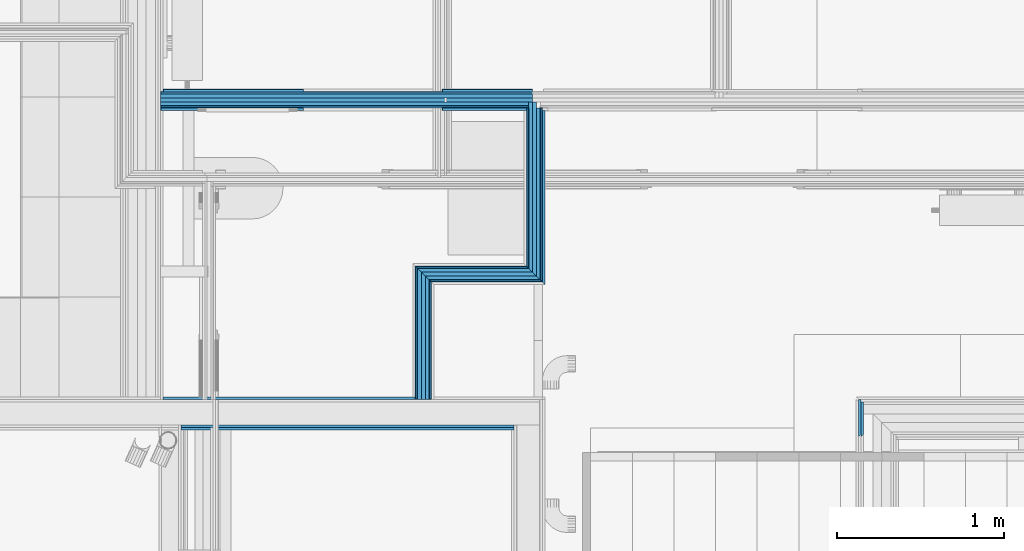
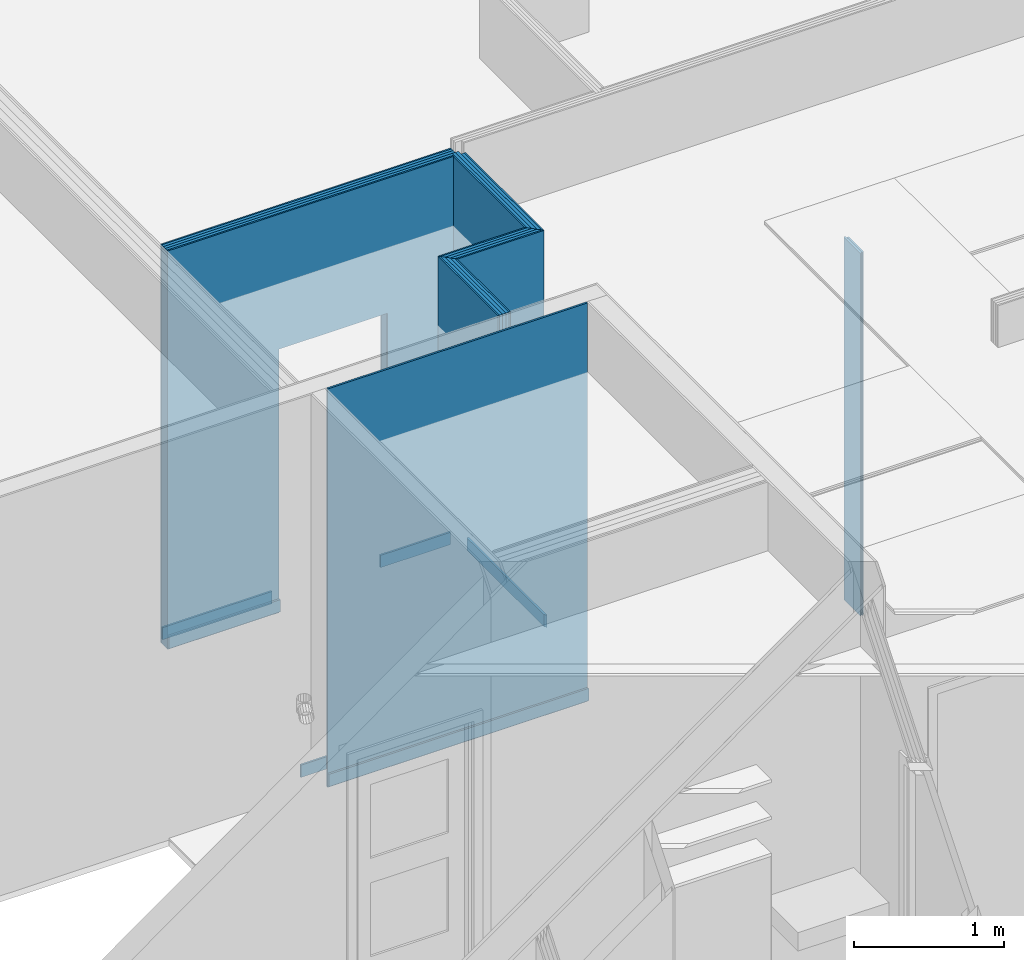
# One storey, part 42 of 169: 28 building element parts, 1 opening, 6 elements without a shape of their own.
"""IFC2X3 building model written with IfcOpenShell, lengths in metres."""

from ifc_helpers import new_model, entity, si_unit, converted_unit, derived_unit, money_unit, direction, frame, frame_2d, origin_with_axes, place, context, subcontext, project, spatial, polyline, rectangle, outline, extrude, material, type_object, element, aggregate, save


model = new_model("IFC2X3")

# Units and contexts
model_context = context("Model", 3, precision=1e-05, world=origin_with_axes(), true_north=direction((0.0, 1.0)))
body_context = subcontext(model_context, "Body", "Model", "MODEL_VIEW", scale=1.0)
ifc_project = project(units=[si_unit("LENGTHUNIT", "METRE"), si_unit("AREAUNIT", "SQUARE_METRE"), si_unit("VOLUMEUNIT", "CUBIC_METRE"), si_unit("ABSORBEDDOSEUNIT", "GRAY"), si_unit("AMOUNTOFSUBSTANCEUNIT", "MOLE"), si_unit("DOSEEQUIVALENTUNIT", "SIEVERT"), si_unit("ELECTRICCAPACITANCEUNIT", "FARAD"), si_unit("ELECTRICCHARGEUNIT", "COULOMB"), si_unit("ELECTRICCONDUCTANCEUNIT", "SIEMENS"), si_unit("ELECTRICCURRENTUNIT", "AMPERE"), si_unit("ELECTRICRESISTANCEUNIT", "OHM"), si_unit("ELECTRICVOLTAGEUNIT", "VOLT"), si_unit("ENERGYUNIT", "JOULE"), si_unit("FORCEUNIT", "NEWTON"), si_unit("FREQUENCYUNIT", "HERTZ"), si_unit("ILLUMINANCEUNIT", "LUX"), si_unit("INDUCTANCEUNIT", "HENRY"), si_unit("LUMINOUSFLUXUNIT", "LUMEN"), si_unit("LUMINOUSINTENSITYUNIT", "CANDELA"), si_unit("MAGNETICFLUXDENSITYUNIT", "TESLA"), si_unit("MAGNETICFLUXUNIT", "WEBER"), si_unit("MASSUNIT", "GRAM"), converted_unit("PLANEANGLEUNIT", "degree", entity("IfcReal", 0.0174532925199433), si_unit("PLANEANGLEUNIT", "RADIAN"), dimensions=[0, 0, 0, 0, 0, 0, 0]), si_unit("POWERUNIT", "WATT"), si_unit("PRESSUREUNIT", "PASCAL"), si_unit("RADIOACTIVITYUNIT", "BECQUEREL"), si_unit("SOLIDANGLEUNIT", "STERADIAN"), si_unit("THERMODYNAMICTEMPERATUREUNIT", "KELVIN"), si_unit("TIMEUNIT", "SECOND"), derived_unit("ACCELERATIONUNIT", [(si_unit("LENGTHUNIT", "METRE"), 1), (si_unit("TIMEUNIT", "SECOND"), -2)]), derived_unit("ANGULARVELOCITYUNIT", [(converted_unit("PLANEANGLEUNIT", "degree", entity("IfcReal", 0.0174532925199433), si_unit("PLANEANGLEUNIT", "RADIAN"), dimensions=[0, 0, 0, 0, 0, 0, 0]), 1), (si_unit("TIMEUNIT", "SECOND"), -1)]), derived_unit("CURVATUREUNIT", [(converted_unit("PLANEANGLEUNIT", "degree", entity("IfcReal", 0.0174532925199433), si_unit("PLANEANGLEUNIT", "RADIAN"), dimensions=[0, 0, 0, 0, 0, 0, 0]), 1), (si_unit("LENGTHUNIT", "METRE"), -1)]), derived_unit("DYNAMICVISCOSITYUNIT", [(si_unit("PRESSUREUNIT", "PASCAL"), 1), (si_unit("TIMEUNIT", "SECOND"), 1)]), derived_unit("HEATFLUXDENSITYUNIT", [(si_unit("POWERUNIT", "WATT"), 1), (si_unit("LENGTHUNIT", "METRE"), -2)]), derived_unit("HEATINGVALUEUNIT", [(si_unit("ENERGYUNIT", "JOULE"), 1), (si_unit("MASSUNIT", "GRAM"), -1)]), derived_unit("INTEGERCOUNTRATEUNIT", [(si_unit("TIMEUNIT", "SECOND"), -1)]), derived_unit("IONCONCENTRATIONUNIT", [(si_unit("MASSUNIT", "GRAM"), 1), (si_unit("VOLUMEUNIT", "CUBIC_METRE"), -1)]), derived_unit("ISOTHERMALMOISTURECAPACITYUNIT", [(si_unit("VOLUMEUNIT", "CUBIC_METRE"), 1), (si_unit("MASSUNIT", "GRAM"), -1)]), derived_unit("KINEMATICVISCOSITYUNIT", [(si_unit("AREAUNIT", "SQUARE_METRE"), 1), (si_unit("TIMEUNIT", "SECOND"), -1)]), derived_unit("LINEARFORCEUNIT", [(si_unit("FORCEUNIT", "NEWTON"), 1), (si_unit("LENGTHUNIT", "METRE"), -1)]), derived_unit("LINEARMOMENTUNIT", [(si_unit("FORCEUNIT", "NEWTON"), 1), (si_unit("LENGTHUNIT", "METRE"), -1)]), derived_unit("LINEARSTIFFNESSUNIT", [(si_unit("FORCEUNIT", "NEWTON"), 1), (si_unit("LENGTHUNIT", "METRE"), -1)]), derived_unit("LINEARVELOCITYUNIT", [(si_unit("LENGTHUNIT", "METRE"), 1), (si_unit("TIMEUNIT", "SECOND"), -1)]), derived_unit("LUMINOUSINTENSITYDISTRIBUTIONUNIT", [(si_unit("LUMINOUSINTENSITYUNIT", "CANDELA"), 1), (si_unit("LUMINOUSFLUXUNIT", "LUMEN"), -1)]), derived_unit("MASSDENSITYUNIT", [(si_unit("MASSUNIT", "GRAM"), 1), (si_unit("VOLUMEUNIT", "CUBIC_METRE"), -1)]), derived_unit("MASSFLOWRATEUNIT", [(si_unit("MASSUNIT", "GRAM"), 1), (si_unit("TIMEUNIT", "SECOND"), -1)]), derived_unit("MASSPERLENGTHUNIT", [(si_unit("MASSUNIT", "GRAM"), 1), (si_unit("LENGTHUNIT", "METRE"), -1)]), derived_unit("MODULUSOFELASTICITYUNIT", [(si_unit("FORCEUNIT", "NEWTON"), 1), (si_unit("AREAUNIT", "SQUARE_METRE"), -1)]), derived_unit("MODULUSOFLINEARSUBGRADEREACTIONUNIT", [(si_unit("FORCEUNIT", "NEWTON"), 1), (si_unit("LENGTHUNIT", "METRE"), -2)]), derived_unit("MODULUSOFROTATIONALSUBGRADEREACTIONUNIT", [(si_unit("FORCEUNIT", "NEWTON"), 1), (si_unit("LENGTHUNIT", "METRE"), 1)]), derived_unit("MODULUSOFSUBGRADEREACTIONUNIT", [(si_unit("FORCEUNIT", "NEWTON"), 1), (si_unit("VOLUMEUNIT", "CUBIC_METRE"), -1)]), derived_unit("MOISTUREDIFFUSIVITYUNIT", [(si_unit("VOLUMEUNIT", "CUBIC_METRE"), 1), (si_unit("TIMEUNIT", "SECOND"), -1)]), derived_unit("MOLECULARWEIGHTUNIT", [(si_unit("MASSUNIT", "GRAM"), 1), (si_unit("AMOUNTOFSUBSTANCEUNIT", "MOLE"), -1)]), derived_unit("PLANARFORCEUNIT", [(si_unit("FORCEUNIT", "NEWTON"), 1), (si_unit("LENGTHUNIT", "METRE"), -2)]), derived_unit("ROTATIONALFREQUENCYUNIT", [(si_unit("TIMEUNIT", "SECOND"), -1)]), derived_unit("ROTATIONALMASSUNIT", [(si_unit("MASSUNIT", "GRAM"), 1), (si_unit("LENGTHUNIT", "METRE"), 2)]), derived_unit("ROTATIONALSTIFFNESSUNIT", [(si_unit("FORCEUNIT", "NEWTON"), 1), (si_unit("LENGTHUNIT", "METRE"), 1), (converted_unit("PLANEANGLEUNIT", "degree", entity("IfcReal", 0.0174532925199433), si_unit("PLANEANGLEUNIT", "RADIAN"), dimensions=[0, 0, 0, 0, 0, 0, 0]), -1)]), derived_unit("SECTIONAREAINTEGRALUNIT", [(si_unit("LENGTHUNIT", "METRE"), 5)]), derived_unit("SECTIONMODULUSUNIT", [(si_unit("LENGTHUNIT", "METRE"), 3)]), derived_unit("SHEARMODULUSUNIT", [(si_unit("FORCEUNIT", "NEWTON"), 1), (si_unit("AREAUNIT", "SQUARE_METRE"), -1)]), derived_unit("SOUNDPOWERUNIT", [(si_unit("ENERGYUNIT", "JOULE"), 1), (si_unit("TIMEUNIT", "SECOND"), -1)]), derived_unit("SPECIFICHEATCAPACITYUNIT", [(si_unit("FORCEUNIT", "NEWTON"), 1), (si_unit("MASSUNIT", "GRAM"), -1), (si_unit("THERMODYNAMICTEMPERATUREUNIT", "KELVIN"), -1)]), derived_unit("TEMPERATUREGRADIENTUNIT", [(si_unit("THERMODYNAMICTEMPERATUREUNIT", "KELVIN"), 1), (si_unit("LENGTHUNIT", "METRE"), -1)]), derived_unit("THERMALADMITTANCEUNIT", [(si_unit("POWERUNIT", "WATT"), 1), (si_unit("AREAUNIT", "SQUARE_METRE"), -1), (si_unit("THERMODYNAMICTEMPERATUREUNIT", "KELVIN"), -1)]), derived_unit("THERMALCONDUCTANCEUNIT", [(si_unit("POWERUNIT", "WATT"), 1), (si_unit("LENGTHUNIT", "METRE"), -1), (si_unit("THERMODYNAMICTEMPERATUREUNIT", "KELVIN"), -1)]), derived_unit("THERMALEXPANSIONCOEFFICIENTUNIT", [(si_unit("THERMODYNAMICTEMPERATUREUNIT", "KELVIN"), -1)]), derived_unit("THERMALRESISTANCEUNIT", [(si_unit("AREAUNIT", "SQUARE_METRE"), 1), (si_unit("POWERUNIT", "WATT"), -1)]), derived_unit("THERMALTRANSMITTANCEUNIT", [(si_unit("POWERUNIT", "WATT"), 1), (si_unit("AREAUNIT", "SQUARE_METRE"), -1), (si_unit("THERMODYNAMICTEMPERATUREUNIT", "KELVIN"), -1)]), derived_unit("TORQUEUNIT", [(si_unit("FORCEUNIT", "NEWTON"), 1), (si_unit("LENGTHUNIT", "METRE"), 1)]), derived_unit("VAPORPERMEABILITYUNIT", [(si_unit("MASSUNIT", "GRAM"), 1), (si_unit("TIMEUNIT", "SECOND"), -1)]), derived_unit("VOLUMETRICFLOWRATEUNIT", [(si_unit("VOLUMEUNIT", "CUBIC_METRE"), 1), (si_unit("TIMEUNIT", "SECOND"), -1)]), derived_unit("WARPINGCONSTANTUNIT", [(si_unit("LENGTHUNIT", "METRE"), 6)]), derived_unit("WARPINGMOMENTUNIT", [(si_unit("FORCEUNIT", "NEWTON"), 1), (si_unit("LENGTHUNIT", "METRE"), 2)]), money_unit("GBP")], contexts=[model_context])

# Site, building, storey
site_placement = place(None, origin_with_axes())
site = spatial("IfcSite", under=ifc_project, at=site_placement, Name="Site", CompositionType="ELEMENT")
building_placement = place(site_placement, origin_with_axes())
building = spatial("IfcBuilding", under=site, at=building_placement, Name="Building01", CompositionType="ELEMENT")
storey_placement = place(building_placement, frame((0.0, 0.0, 5.15), z_axis=(0.0, 0.0, 1.0), x_axis=(1.0, 0.0, 0.0)))
storey = spatial("IfcBuildingStorey", under=building, at=storey_placement, Name="1F", CompositionType="ELEMENT", Elevation=5.15)

# Wall, building element parts
wall_type_1 = type_object("IfcWallType", Name="SHE_A-Walls_Type01c_Partywall_225mm_twin_tall", PredefinedType="NOTDEFINED")
wall_1_placement = place(storey_placement, frame((19.985661, 8.732, 0.0), z_axis=(0.0, 0.0, 1.0), x_axis=(0.0, -1.0, 0.0)))
wall_1 = element("IfcWall", 1, at=wall_1_placement, inside=storey, type_object=wall_type_1, Name="1C", ObjectType="SHE_A-Walls_Type01c_Partywall_225mm_twin_tall")
ifc_material_1 = material(Name="A_BSUK_WallInternal_Finishes_Plasterboard")
placement_1 = place(wall_1_placement, origin_with_axes())
building_element_part_1 = element("IfcBuildingElementPart", 2, at=placement_1, material=ifc_material_1, Name="4", context=body_context, shape_type="SweptSolid", body=[
    extrude(outline(polyline([(0.122, -0.073), (-0.088, -0.073), (-0.088, -0.088), (0.137, -0.088), (0.122, -0.073)])), origin_with_axes(), (0.0, 0.0, 1.0), 2.95),
])
building_element_part_2 = element("IfcBuildingElementPart", 3, at=placement_1, material=ifc_material_1, Name="7", context=body_context, shape_type="SweptSolid", body=[
    extrude(outline(polyline([(0.122, -0.058), (-0.073, -0.058), (-0.073, -0.073), (0.137, -0.073), (0.122, -0.058)])), origin_with_axes(), (0.0, 0.0, 1.0), 2.95),
])
aggregate(wall_1, [building_element_part_1, building_element_part_2])

# Wall, opening, building element parts
wall_type_2 = type_object("IfcWallType", Name="SHE_A-Walls_Type05a_Partition_95mm_tall", PredefinedType="NOTDEFINED")
wall_2_placement = place(storey_placement, frame((17.94, 10.63, 0.0), z_axis=(0.0, 0.0, 1.0), x_axis=(-1.0, 0.0, 0.0)))
wall_2 = element("IfcWall", 4, at=wall_2_placement, inside=storey, type_object=wall_type_2, Name="5A", ObjectType="SHE_A-Walls_Type05a_Partition_95mm_tall")
opening_placement = place(wall_2_placement, frame((0.540552, -0.05, 0.0), z_axis=(0.0, 0.0, 1.0), x_axis=(1.0, 0.0, 0.0)))
element("IfcOpeningElement", 5, at=opening_placement, cuts=wall_2, Name="Opening", ObjectType="Opening", context=body_context, shape_type="SweptSolid", body=[
    extrude(rectangle(XDim=0.834, YDim=2.142, at=frame_2d((-0.417, 1.071), x_axis=(-1.0, 0.0))), frame((0.0, 0.0, 0.0), z_axis=(0.0, 1.0, 0.0), x_axis=(-1.0, 0.0, 0.0)), (0.0, 0.0, 1.0), 0.125),
])
ifc_material_2 = material(Name="A_BSUK_Walls_Timber")
placement_2 = place(wall_2_placement, origin_with_axes())
building_element_part_3 = element("IfcBuildingElementPart", 6, at=placement_2, material=ifc_material_2, Name="1", context=body_context, shape_type="SweptSolid", body=[
    extrude(rectangle(XDim=2.216868, YDim=0.015, at=frame_2d((1.108434, -0.0425), x_axis=(-1.0, 0.0))), frame((0.0, 0.0, 0.015), z_axis=(0.0, 0.0, 1.0), x_axis=(1.0, 0.0, 0.0)), (0.0, 0.0, 1.0), 0.1),
])
building_element_part_4 = element("IfcBuildingElementPart", 7, at=placement_2, material=ifc_material_1, Name="2", context=body_context, shape_type="SweptSolid", body=[
    extrude(rectangle(XDim=2.231868, YDim=0.012, at=frame_2d((1.115934, -0.029), x_axis=(-1.0, 0.0))), origin_with_axes(), (0.0, 0.0, 1.0), 3.24),
])
ifc_material_3 = material(Name="Air Cavity")
building_element_part_5 = element("IfcBuildingElementPart", 8, at=placement_2, material=ifc_material_3, Name="3", context=body_context, shape_type="SweptSolid", body=[
    extrude(rectangle(XDim=2.231868, YDim=0.023, at=frame_2d((1.115934, -0.0115), x_axis=(-1.0, 0.0))), origin_with_axes(), (0.0, 0.0, 1.0), 3.24),
])
ifc_material_4 = material(Name="A_BSUK_Insulation")
building_element_part_6 = element("IfcBuildingElementPart", 9, at=placement_2, material=ifc_material_4, Name="4", context=body_context, shape_type="SweptSolid", body=[
    extrude(rectangle(XDim=2.231868, YDim=0.025, at=frame_2d((1.115934, 0.0125), x_axis=(-1.0, 0.0))), origin_with_axes(), (0.0, 0.0, 1.0), 3.24),
])
building_element_part_7 = element("IfcBuildingElementPart", 10, at=placement_2, material=ifc_material_3, Name="5", context=body_context, shape_type="SweptSolid", body=[
    extrude(rectangle(XDim=2.231868, YDim=0.023, at=frame_2d((1.115934, 0.0365), x_axis=(-1.0, 0.0))), origin_with_axes(), (0.0, 0.0, 1.0), 3.24),
])
building_element_part_8 = element("IfcBuildingElementPart", 11, at=placement_2, material=ifc_material_1, Name="6", context=body_context, shape_type="SweptSolid", body=[
    extrude(rectangle(XDim=2.208868, YDim=0.012, at=frame_2d((1.127434, 0.054), x_axis=(-1.0, 0.0))), origin_with_axes(), (0.0, 0.0, 1.0), 3.24),
])
building_element_part_9 = element("IfcBuildingElementPart", 12, at=placement_2, material=ifc_material_2, Name="7", context=body_context, shape_type="SweptSolid", body=[
    extrude(rectangle(XDim=2.196868, YDim=0.015, at=frame_2d((1.133434, 0.0675), x_axis=(-1.0, 0.0))), frame((0.0, 0.0, 0.015), z_axis=(0.0, 0.0, 1.0), x_axis=(1.0, 0.0, 0.0)), (0.0, 0.0, 1.0), 0.1),
])
aggregate(wall_2, [building_element_part_3, building_element_part_4, building_element_part_5, building_element_part_6, building_element_part_7, building_element_part_8, building_element_part_9])

# Wall, building element parts
wall_3_placement = place(storey_placement, frame((17.273132, 8.82, 0.0), z_axis=(0.0, 0.0, 1.0), x_axis=(0.0, 1.0, 0.0)))
wall_3 = element("IfcWall", 13, at=wall_3_placement, inside=storey, type_object=wall_type_2, Name="5A", ObjectType="SHE_A-Walls_Type05a_Partition_95mm_tall")
placement_3 = place(wall_3_placement, origin_with_axes())
building_element_part_10 = element("IfcBuildingElementPart", 14, at=placement_3, material=ifc_material_1, Name="2", context=body_context, shape_type="SweptSolid", body=[
    extrude(outline(polyline([(0.717, -0.048), (0.0, -0.048), (0.0, -0.06), (0.705, -0.06), (0.717, -0.048)])), origin_with_axes(), (0.0, 0.0, 1.0), 3.24),
])
building_element_part_11 = element("IfcBuildingElementPart", 15, at=placement_3, material=ifc_material_3, Name="3", context=body_context, shape_type="SweptSolid", body=[
    extrude(outline(polyline([(0.74, -0.025), (0.0, -0.025), (0.0, -0.048), (0.717, -0.048), (0.74, -0.025)])), origin_with_axes(), (0.0, 0.0, 1.0), 3.24),
])
building_element_part_12 = element("IfcBuildingElementPart", 16, at=placement_3, material=ifc_material_4, Name="4", context=body_context, shape_type="SweptSolid", body=[
    extrude(outline(polyline([(0.765, 0.0), (0.0, 0.0), (0.0, -0.025), (0.74, -0.025), (0.765, 0.0)])), origin_with_axes(), (0.0, 0.0, 1.0), 3.24),
])
building_element_part_13 = element("IfcBuildingElementPart", 17, at=placement_3, material=ifc_material_3, Name="5", context=body_context, shape_type="SweptSolid", body=[
    extrude(outline(polyline([(0.788, 0.023), (0.0, 0.023), (0.0, 0.0), (0.765, 0.0), (0.788, 0.023)])), origin_with_axes(), (0.0, 0.0, 1.0), 3.24),
])
building_element_part_14 = element("IfcBuildingElementPart", 18, at=placement_3, material=ifc_material_1, Name="6", context=body_context, shape_type="SweptSolid", body=[
    extrude(outline(polyline([(0.8, 0.035), (0.0, 0.035), (0.0, 0.023), (0.788, 0.023), (0.8, 0.035)])), origin_with_axes(), (0.0, 0.0, 1.0), 3.24),
])
aggregate(wall_3, [building_element_part_10, building_element_part_11, building_element_part_12, building_element_part_13, building_element_part_14])

wall_4_placement = place(storey_placement, frame((17.273132, 9.585, 0.0), z_axis=(0.0, 0.0, 1.0), x_axis=(1.0, 0.0, 0.0)))
wall_4 = element("IfcWall", 19, at=wall_4_placement, inside=storey, type_object=wall_type_2, Name="5A", ObjectType="SHE_A-Walls_Type05a_Partition_95mm_tall")
placement_4 = place(wall_4_placement, origin_with_axes())
building_element_part_15 = element("IfcBuildingElementPart", 20, at=placement_4, material=ifc_material_1, Name="2", context=body_context, shape_type="SweptSolid", body=[
    extrude(outline(polyline([(0.714868, -0.048), (0.048, -0.048), (0.06, -0.06), (0.726868, -0.06), (0.714868, -0.048)])), origin_with_axes(), (0.0, 0.0, 1.0), 3.24),
])
building_element_part_16 = element("IfcBuildingElementPart", 21, at=placement_4, material=ifc_material_3, Name="3", context=body_context, shape_type="SweptSolid", body=[
    extrude(outline(polyline([(0.691868, -0.025), (0.025, -0.025), (0.048, -0.048), (0.714868, -0.048), (0.691868, -0.025)])), origin_with_axes(), (0.0, 0.0, 1.0), 3.24),
])
building_element_part_17 = element("IfcBuildingElementPart", 22, at=placement_4, material=ifc_material_4, Name="4", context=body_context, shape_type="SweptSolid", body=[
    extrude(outline(polyline([(0.666868, 0.0), (0.0, 0.0), (0.025, -0.025), (0.691868, -0.025), (0.666868, 0.0)])), origin_with_axes(), (0.0, 0.0, 1.0), 3.24),
])
building_element_part_18 = element("IfcBuildingElementPart", 23, at=placement_4, material=ifc_material_3, Name="5", context=body_context, shape_type="SweptSolid", body=[
    extrude(outline(polyline([(0.643868, 0.023), (-0.023, 0.023), (0.0, 0.0), (0.666868, 0.0), (0.643868, 0.023)])), origin_with_axes(), (0.0, 0.0, 1.0), 3.24),
])
building_element_part_19 = element("IfcBuildingElementPart", 24, at=placement_4, material=ifc_material_1, Name="6", context=body_context, shape_type="SweptSolid", body=[
    extrude(outline(polyline([(0.631868, 0.035), (-0.035, 0.035), (-0.023, 0.023), (0.643868, 0.023), (0.631868, 0.035)])), origin_with_axes(), (0.0, 0.0, 1.0), 3.24),
])
aggregate(wall_4, [building_element_part_15, building_element_part_16, building_element_part_17, building_element_part_18, building_element_part_19])

wall_5_placement = place(storey_placement, frame((17.94, 9.585, 0.0), z_axis=(0.0, 0.0, 1.0), x_axis=(0.0, 1.0, 0.0)))
wall_5 = element("IfcWall", 25, at=wall_5_placement, inside=storey, type_object=wall_type_2, Name="5A", ObjectType="SHE_A-Walls_Type05a_Partition_95mm_tall")
placement_5 = place(wall_5_placement, origin_with_axes())
building_element_part_20 = element("IfcBuildingElementPart", 26, at=placement_5, material=ifc_material_2, Name="1", context=body_context, shape_type="SweptSolid", body=[
    extrude(outline(polyline([(0.97, -0.06), (-0.06, -0.06), (-0.075, -0.075), (0.97, -0.075), (0.97, -0.06)])), frame((0.0, 0.0, 0.015), z_axis=(0.0, 0.0, 1.0), x_axis=(1.0, 0.0, 0.0)), (0.0, 0.0, 1.0), 0.1),
])
building_element_part_21 = element("IfcBuildingElementPart", 27, at=placement_5, material=ifc_material_1, Name="2", context=body_context, shape_type="SweptSolid", body=[
    extrude(outline(polyline([(0.985, -0.048), (-0.048, -0.048), (-0.06, -0.06), (0.985, -0.06), (0.985, -0.048)])), origin_with_axes(), (0.0, 0.0, 1.0), 3.24),
])
building_element_part_22 = element("IfcBuildingElementPart", 28, at=placement_5, material=ifc_material_3, Name="3", context=body_context, shape_type="SweptSolid", body=[
    extrude(outline(polyline([(0.985, -0.025), (-0.025, -0.025), (-0.048, -0.048), (0.985, -0.048), (0.985, -0.025)])), origin_with_axes(), (0.0, 0.0, 1.0), 3.24),
])
building_element_part_23 = element("IfcBuildingElementPart", 29, at=placement_5, material=ifc_material_4, Name="4", context=body_context, shape_type="SweptSolid", body=[
    extrude(outline(polyline([(1.02, 0.0), (0.0, 0.0), (-0.025, -0.025), (1.02, -0.025), (1.02, 0.0)])), origin_with_axes(), (0.0, 0.0, 1.0), 3.24),
])
building_element_part_24 = element("IfcBuildingElementPart", 30, at=placement_5, material=ifc_material_3, Name="5", context=body_context, shape_type="SweptSolid", body=[
    extrude(outline(polyline([(1.02, 0.023), (0.023, 0.023), (0.0, 0.0), (1.02, 0.0), (1.02, 0.023)])), origin_with_axes(), (0.0, 0.0, 1.0), 3.24),
])
building_element_part_25 = element("IfcBuildingElementPart", 31, at=placement_5, material=ifc_material_1, Name="6", context=body_context, shape_type="SweptSolid", body=[
    extrude(outline(polyline([(0.985, 0.035), (0.035, 0.035), (0.023, 0.023), (0.985, 0.023), (0.985, 0.035)])), origin_with_axes(), (0.0, 0.0, 1.0), 3.24),
])
aggregate(wall_5, [building_element_part_20, building_element_part_21, building_element_part_22, building_element_part_23, building_element_part_24, building_element_part_25])

wall_type_3 = type_object("IfcWallType", Name="SHE_A-Walls_Type03a_BlockworkWall_170mm", PredefinedType="NOTDEFINED")
wall_6_placement = place(storey_placement, frame((17.985, 8.805, 0.0), z_axis=(0.0, 0.0, 1.0), x_axis=(-1.0, 0.0, 0.0)))
wall_6 = element("IfcWall", 32, at=wall_6_placement, inside=storey, type_object=wall_type_3, Name="4B", ObjectType="SHE_A-Walls_Type03a_BlockworkWall_170mm")
placement_6 = place(wall_6_placement, origin_with_axes())
building_element_part_26 = element("IfcBuildingElementPart", 33, at=placement_6, material=ifc_material_2, Name="6", context=body_context, shape_type="SweptSolid", body=[
    extrude(rectangle(XDim=1.515, YDim=0.015, at=frame_2d((1.504368, -0.0225), x_axis=(-1.0, 0.0))), frame((0.0, 0.0, 0.015), z_axis=(0.0, 0.0, 1.0), x_axis=(1.0, 0.0, 0.0)), (0.0, 0.0, 1.0), 0.1),
])
ifc_material_5 = material(Name="A_BSUK_WallInternal_Finishes_Plaster")
building_element_part_27 = element("IfcBuildingElementPart", 34, at=placement_6, material=ifc_material_5, Name="9", context=body_context, shape_type="SweptSolid", body=[
    extrude(rectangle(XDim=2.0, YDim=0.015, at=frame_2d((1.155, 0.1475), x_axis=(-1.0, 0.0))), origin_with_axes(), (0.0, 0.0, 1.0), 3.24),
])
building_element_part_28 = element("IfcBuildingElementPart", 35, at=placement_6, material=ifc_material_2, Name="12", context=body_context, shape_type="SweptSolid", body=[
    extrude(rectangle(XDim=2.0, YDim=0.015, at=frame_2d((1.155, 0.1625), x_axis=(-1.0, 0.0))), frame((0.0, 0.0, 0.015), z_axis=(0.0, 0.0, 1.0), x_axis=(1.0, 0.0, 0.0)), (0.0, 0.0, 1.0), 0.1),
])
aggregate(wall_6, [building_element_part_26, building_element_part_27, building_element_part_28])

save(model, "model.ifc")
